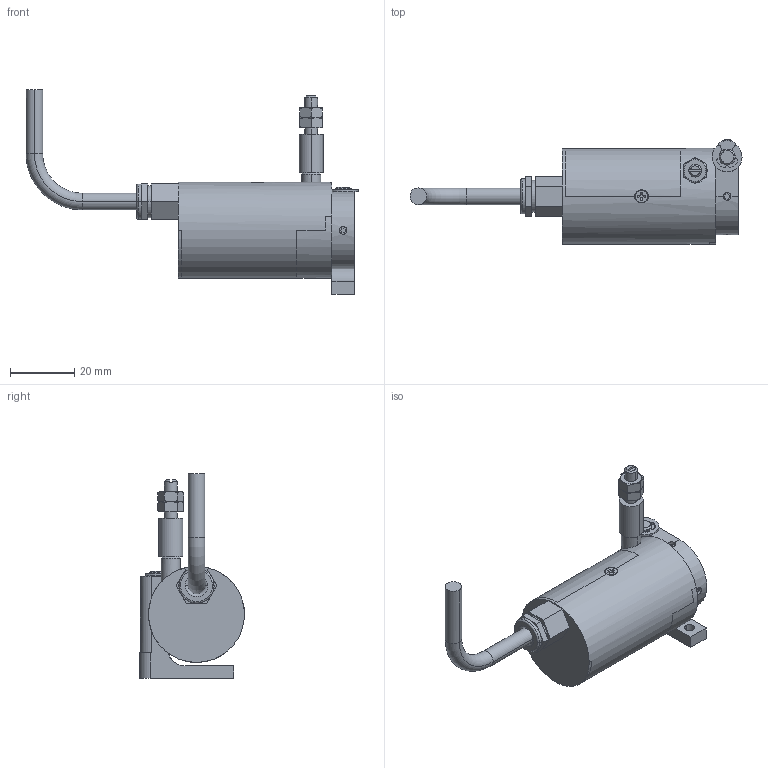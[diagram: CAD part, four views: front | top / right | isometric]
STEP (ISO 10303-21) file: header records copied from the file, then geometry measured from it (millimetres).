
FILE_DESCRIPTION((''),'2;1');
FILE_NAME('','2007-03-19T',(''),(''),'PRO/ENGINEER BY PARAMETRIC TECHNOLOGY CORPORATION, 2003250','PRO/ENGINEER BY PARAMETRIC TECHNOLOGY CORPORATION, 2003250','');
FILE_SCHEMA(('CONFIG_CONTROL_DESIGN'));
Length unit declared in the file: millimetre
Bounding box: 103.75 x 32.8 x 64 mm (x, y, z)
Volume: 22775.6 mm3; surface area: 17706.2 mm2
Topology: 1 solids, 9 shells, 336 faces, 839 edges, 540 vertices
Faces by surface type: plane 146, cylinder 126, cone 40, torus 24
Entity records: 11105 total; most frequent: CARTESIAN_POINT 2934, DIRECTION 1750, ORIENTED_EDGE 1654, EDGE_CURVE 827, AXIS2_PLACEMENT_3D 673, VERTEX_POINT 540, VECTOR 404, LINE 404
